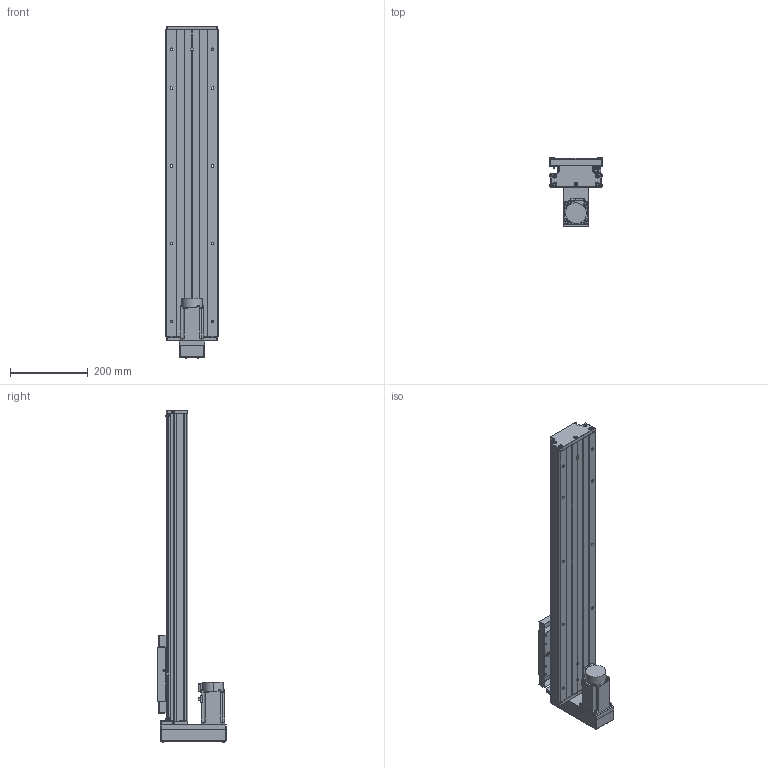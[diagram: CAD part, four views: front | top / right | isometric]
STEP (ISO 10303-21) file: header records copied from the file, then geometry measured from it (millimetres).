
FILE_DESCRIPTION (( 'STEP AP203' ), '1' );
FILE_NAME ('GTH14-550-BM-M40-C4.step', '2023-06-30T08:46:35', ( '微软用户' ), ( '微软中国' ), 'SwSTEP 2.0', 'SolidWorks 2020', '' );
FILE_SCHEMA (( 'CONFIG_CONTROL_DESIGN' ));
Length unit declared in the file: millimetre
Products named in the file (19): GB1155-6X6; GTH14-031; GTH14-550-BM-M40-C4; GBT70.1 M5℅16; GBT 70.2-M3¡Á5_M3¡Á6; CTHA60-017; す晦芛蹟隊 M3℅5; GTH14-001_550; EE_SX911P_R; HG-KN43J-S100; GTH14-002_GTH14-002; CTHA60-016; GBT 70.2-M4¡Á35_M4¡Á35; GTH14-004; GBT 70.1-M3℅5; GTH14-015-2_CTHA86-015-2; GTH14-005; GBT77-2000 M3×3; GTH14-033
Assembly tree (58 placements, depth 2):
  GTH14-550-BM-M40-C4
    GTH14-001_550
    GTH14-002_GTH14-002
    GTH14-004
    GTH14-005
    GB1155-6X6  x2
    GBT70.1 M5℅16  x10
    CTHA60-017  x3
    EE_SX911P_R  x3
    CTHA60-016  x2
    GBT 70.1-M3℅5  x6
    GBT77-2000 M3×3  x6
    GTH14-031
    GBT 70.2-M3¡Á5_M3¡Á6  x8
    す晦芛蹟隊 M3℅5  x6
    HG-KN43J-S100
    GBT 70.2-M4¡Á35_M4¡Á35  x4
    GTH14-015-2_CTHA86-015-2
    GTH14-033
Bounding box: 135 x 177.5 x 854.2 mm (x, y, z)
Volume: 4804732.7 mm3; surface area: 824881 mm2
Topology: 61 solids, 61 shells, 2453 faces, 5833 edges, 3594 vertices
Faces by surface type: plane 1307, cylinder 656, cone 314, torus 124, sphere 32, bspline 20
Entity records: 44158 total; most frequent: CARTESIAN_POINT 9857, DIRECTION 6489, ORIENTED_EDGE 6356, EDGE_CURVE 3178, AXIS2_PLACEMENT_3D 2218, VECTOR 2053, LINE 2053, VERTEX_POINT 2012
